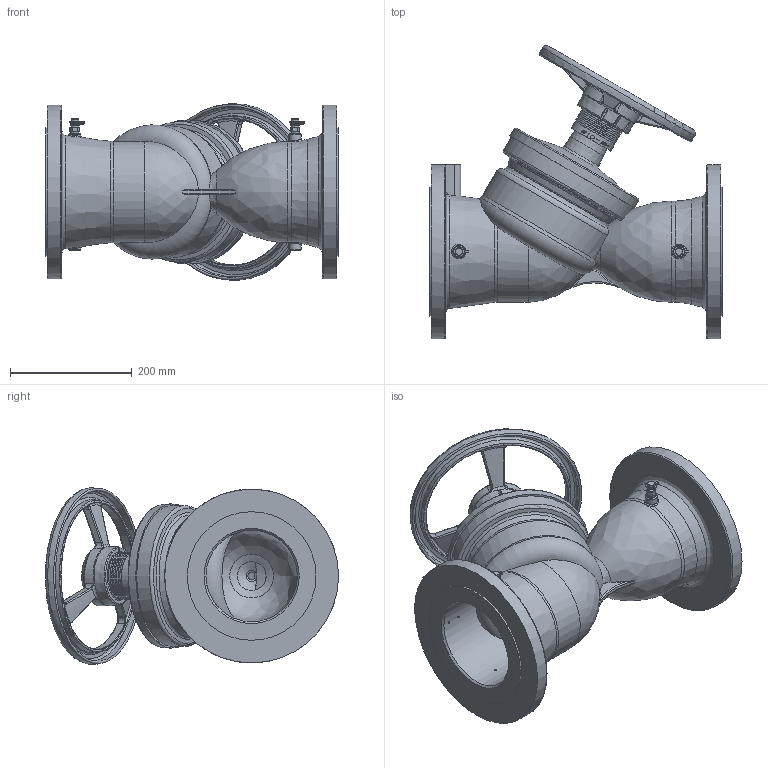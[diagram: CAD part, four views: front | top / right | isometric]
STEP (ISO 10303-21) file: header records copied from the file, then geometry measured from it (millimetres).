
FILE_DESCRIPTION((''),'2;1');
FILE_NAME('P:\Fastrack\53972_CRANE 3D\DM921-941\WORKSPACE\DM931_DN150\DM931_DN150.stp','2011-01-18T12:16:23',('btaylor'),(''),'Autodesk Inventor 2008','Autodesk Inventor 2008','');
FILE_SCHEMA(('AUTOMOTIVE_DESIGN { 1 0 10303 214 1 1 1 1 }'));
Length unit declared in the file: millimetre
Products named in the file (1): DM931_DN150
Bounding box: 480 x 480.68 x 289.5 mm (x, y, z)
Volume: 6998047.1 mm3; surface area: 1126734.4 mm2
Topology: 2 solids, 2 shells, 920 faces, 2361 edges, 1506 vertices
Faces by surface type: plane 374, bspline 273, cylinder 176, cone 49, torus 48
Full cylindrical faces by diameter (mm): 6 x2, 7.4 x2, 9.5 x8, 11 x2, 12.7 x2, 13.7 x2, 20 x2, 21.3 x2, 21.4 x1, 24 x1, 28.6 x1, 29.5 x1, 29.844 x1, 32.5 x1, 33.3 x1, 36 x1, 46 x1, 49 x1, 50 x1, 56 x1, 61 x1, 68 x1, 69 x1, 75 x1, 80 x1, 150 x2, 177 x1, 182 x1, 196.5 x1, 197 x1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
Entity records: 77683 total; most frequent: CARTESIAN_POINT 56916, ORIENTED_EDGE 4366, DIRECTION 3345, EDGE_CURVE 2183, VERTEX_POINT 1459, AXIS2_PLACEMENT_3D 1247, EDGE_LOOP 1168, STYLED_ITEM 920
